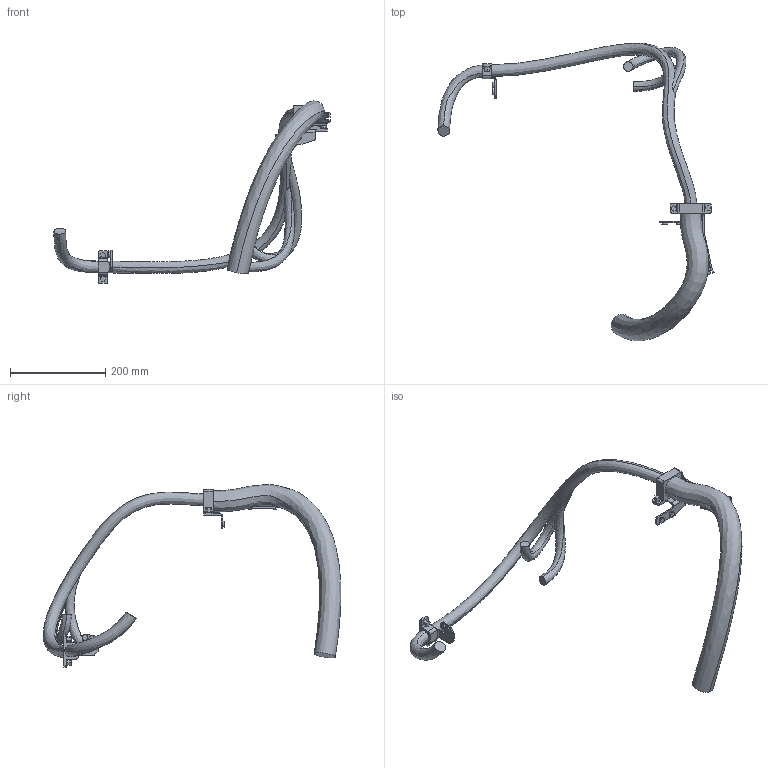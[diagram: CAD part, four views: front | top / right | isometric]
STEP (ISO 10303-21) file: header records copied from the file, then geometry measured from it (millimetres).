
FILE_DESCRIPTION (( 'STEP AP214' ), '1' );
FILE_NAME ('IRB5720-LID_90kg-300_OmniCore_rev00_LINK03m_CABLE.step', '2025-07-08T10:56:14', ( '' ), ( '' ), 'SwSTEP 2.0', 'SolidWorks 2024', '' );
FILE_SCHEMA (( 'AUTOMOTIVE_DESIGN' ));
Length unit declared in the file: millimetre
Products named in the file (1): IRB5720-LID_90kg-300_OmniCore_rev00_LINK03m_CABLE
Bounding box: 579.39 x 624.77 x 382.89 mm (x, y, z)
Volume: 1657891.5 mm3; surface area: 226050.3 mm2
Topology: 1 solids, 3 shells, 248 faces, 634 edges, 397 vertices
Faces by surface type: plane 153, cylinder 84, bspline 11
Entity records: 14156 total; most frequent: CARTESIAN_POINT 5405, ORIENTED_EDGE 1268, DIRECTION 1236, EDGE_CURVE 634, AXIS2_PLACEMENT_3D 416, VECTOR 404, LINE 404, VERTEX_POINT 397
